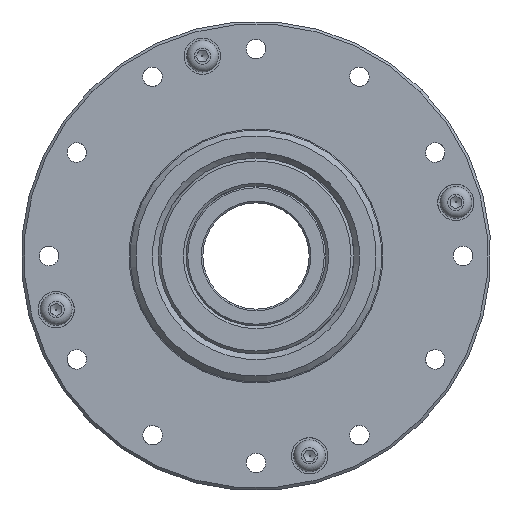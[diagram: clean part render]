
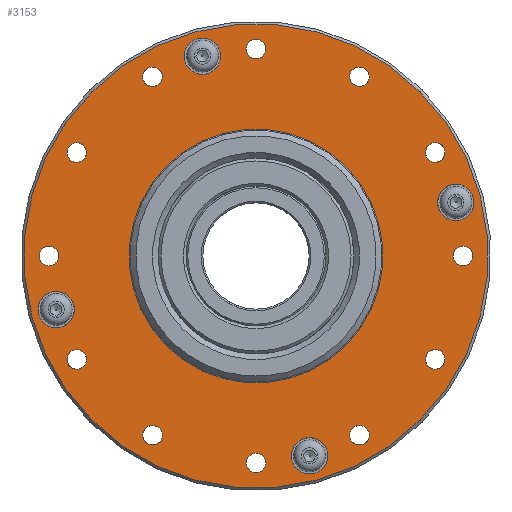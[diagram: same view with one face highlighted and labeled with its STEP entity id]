
A CAD part, left-side view. The second image highlights one B-rep face of the part: STEP entity #3153.
In plain terms, the highlighted planar face has unit normal (-1, 0, 0).
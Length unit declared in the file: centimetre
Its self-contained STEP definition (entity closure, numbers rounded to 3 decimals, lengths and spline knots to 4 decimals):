
#655=FACE_BOUND($,#1190,.T.);
#656=FACE_BOUND($,#1191,.T.);
#657=FACE_BOUND($,#1192,.T.);
#658=FACE_BOUND($,#1193,.T.);
#659=FACE_BOUND($,#1194,.T.);
#660=FACE_BOUND($,#1195,.T.);
#661=FACE_BOUND($,#1196,.T.);
#662=FACE_BOUND($,#1197,.T.);
#663=FACE_BOUND($,#1198,.T.);
#664=FACE_BOUND($,#1199,.T.);
#665=FACE_BOUND($,#1200,.T.);
#666=FACE_BOUND($,#1201,.T.);
#667=FACE_BOUND($,#1202,.T.);
#668=FACE_BOUND($,#1203,.T.);
#669=FACE_BOUND($,#1204,.T.);
#670=FACE_BOUND($,#1205,.T.);
#671=FACE_BOUND($,#1206,.T.);
#672=FACE_BOUND($,#1207,.T.);
#1190=EDGE_LOOP($,(#2621));
#1191=EDGE_LOOP($,(#2622));
#1192=EDGE_LOOP($,(#2623));
#1193=EDGE_LOOP($,(#2624));
#1194=EDGE_LOOP($,(#2625));
#1195=EDGE_LOOP($,(#2626));
#1196=EDGE_LOOP($,(#2627));
#1197=EDGE_LOOP($,(#2628));
#1198=EDGE_LOOP($,(#2629));
#1199=EDGE_LOOP($,(#2630));
#1200=EDGE_LOOP($,(#2631));
#1201=EDGE_LOOP($,(#2632));
#1202=EDGE_LOOP($,(#2633));
#1203=EDGE_LOOP($,(#2634));
#1204=EDGE_LOOP($,(#2635));
#1205=EDGE_LOOP($,(#2636));
#1206=EDGE_LOOP($,(#2637));
#1207=EDGE_LOOP($,(#2638));
#1539=CIRCLE($,#3455,0.325);
#1540=CIRCLE($,#3457,0.325);
#1541=CIRCLE($,#3459,0.325);
#1542=CIRCLE($,#3461,0.325);
#1544=CIRCLE($,#3464,2.27);
#1545=CIRCLE($,#3466,0.175);
#1546=CIRCLE($,#3467,0.175);
#1547=CIRCLE($,#3468,0.175);
#1548=CIRCLE($,#3469,0.175);
#1549=CIRCLE($,#3470,0.175);
#1550=CIRCLE($,#3471,0.175);
#1551=CIRCLE($,#3472,0.175);
#1552=CIRCLE($,#3473,0.175);
#1553=CIRCLE($,#3474,0.175);
#1554=CIRCLE($,#3475,0.175);
#1555=CIRCLE($,#3476,0.175);
#1556=CIRCLE($,#3477,0.175);
#1557=CIRCLE($,#3478,4.15);
#1798=VERTEX_POINT($,#5138);
#1799=VERTEX_POINT($,#5141);
#1800=VERTEX_POINT($,#5144);
#1801=VERTEX_POINT($,#5147);
#1803=VERTEX_POINT($,#5152);
#1804=VERTEX_POINT($,#5155);
#1805=VERTEX_POINT($,#5157);
#1806=VERTEX_POINT($,#5159);
#1807=VERTEX_POINT($,#5161);
#1808=VERTEX_POINT($,#5163);
#1809=VERTEX_POINT($,#5165);
#1810=VERTEX_POINT($,#5167);
#1811=VERTEX_POINT($,#5169);
#1812=VERTEX_POINT($,#5171);
#1813=VERTEX_POINT($,#5173);
#1814=VERTEX_POINT($,#5175);
#1815=VERTEX_POINT($,#5177);
#1816=VERTEX_POINT($,#5179);
#2123=EDGE_CURVE($,#1798,#1798,#1539,.T.);
#2124=EDGE_CURVE($,#1799,#1799,#1540,.T.);
#2125=EDGE_CURVE($,#1800,#1800,#1541,.T.);
#2126=EDGE_CURVE($,#1801,#1801,#1542,.T.);
#2128=EDGE_CURVE($,#1803,#1803,#1544,.T.);
#2129=EDGE_CURVE($,#1804,#1804,#1545,.T.);
#2130=EDGE_CURVE($,#1805,#1805,#1546,.T.);
#2131=EDGE_CURVE($,#1806,#1806,#1547,.T.);
#2132=EDGE_CURVE($,#1807,#1807,#1548,.T.);
#2133=EDGE_CURVE($,#1808,#1808,#1549,.T.);
#2134=EDGE_CURVE($,#1809,#1809,#1550,.T.);
#2135=EDGE_CURVE($,#1810,#1810,#1551,.T.);
#2136=EDGE_CURVE($,#1811,#1811,#1552,.T.);
#2137=EDGE_CURVE($,#1812,#1812,#1553,.T.);
#2138=EDGE_CURVE($,#1813,#1813,#1554,.T.);
#2139=EDGE_CURVE($,#1814,#1814,#1555,.T.);
#2140=EDGE_CURVE($,#1815,#1815,#1556,.T.);
#2141=EDGE_CURVE($,#1816,#1816,#1557,.T.);
#2621=ORIENTED_EDGE($,*,*,#2128,.F.);
#2622=ORIENTED_EDGE($,*,*,#2129,.T.);
#2623=ORIENTED_EDGE($,*,*,#2130,.T.);
#2624=ORIENTED_EDGE($,*,*,#2131,.T.);
#2625=ORIENTED_EDGE($,*,*,#2132,.T.);
#2626=ORIENTED_EDGE($,*,*,#2133,.T.);
#2627=ORIENTED_EDGE($,*,*,#2134,.T.);
#2628=ORIENTED_EDGE($,*,*,#2135,.T.);
#2629=ORIENTED_EDGE($,*,*,#2136,.T.);
#2630=ORIENTED_EDGE($,*,*,#2137,.T.);
#2631=ORIENTED_EDGE($,*,*,#2138,.T.);
#2632=ORIENTED_EDGE($,*,*,#2139,.T.);
#2633=ORIENTED_EDGE($,*,*,#2140,.T.);
#2634=ORIENTED_EDGE($,*,*,#2123,.T.);
#2635=ORIENTED_EDGE($,*,*,#2124,.T.);
#2636=ORIENTED_EDGE($,*,*,#2125,.T.);
#2637=ORIENTED_EDGE($,*,*,#2126,.T.);
#2638=ORIENTED_EDGE($,*,*,#2141,.F.);
#3015=PLANE($,#3465);
#3153=ADVANCED_FACE($,(#655,#656,#657,#658,#659,#660,#661,#662,#663,#664,
#665,#666,#667,#668,#669,#670,#671,#672),#3015,.T.);
#3455=AXIS2_PLACEMENT_3D($,#5139,#4112,#4113);
#3457=AXIS2_PLACEMENT_3D($,#5142,#4116,#4117);
#3459=AXIS2_PLACEMENT_3D($,#5145,#4120,#4121);
#3461=AXIS2_PLACEMENT_3D($,#5148,#4124,#4125);
#3464=AXIS2_PLACEMENT_3D($,#5153,#4130,#4131);
#3465=AXIS2_PLACEMENT_3D($,#5154,#4132,#4133);
#3466=AXIS2_PLACEMENT_3D($,#5156,#4134,#4135);
#3467=AXIS2_PLACEMENT_3D($,#5158,#4136,#4137);
#3468=AXIS2_PLACEMENT_3D($,#5160,#4138,#4139);
#3469=AXIS2_PLACEMENT_3D($,#5162,#4140,#4141);
#3470=AXIS2_PLACEMENT_3D($,#5164,#4142,#4143);
#3471=AXIS2_PLACEMENT_3D($,#5166,#4144,#4145);
#3472=AXIS2_PLACEMENT_3D($,#5168,#4146,#4147);
#3473=AXIS2_PLACEMENT_3D($,#5170,#4148,#4149);
#3474=AXIS2_PLACEMENT_3D($,#5172,#4150,#4151);
#3475=AXIS2_PLACEMENT_3D($,#5174,#4152,#4153);
#3476=AXIS2_PLACEMENT_3D($,#5176,#4154,#4155);
#3477=AXIS2_PLACEMENT_3D($,#5178,#4156,#4157);
#3478=AXIS2_PLACEMENT_3D($,#5180,#4158,#4159);
#4112=DIRECTION('center_axis',(1.,0.,0.));
#4113=DIRECTION('ref_axis',(0.,-0.259,-0.966));
#4116=DIRECTION('center_axis',(1.,0.,0.));
#4117=DIRECTION('ref_axis',(0.,-0.259,-0.966));
#4120=DIRECTION('center_axis',(1.,0.,0.));
#4121=DIRECTION('ref_axis',(0.,-0.259,-0.966));
#4124=DIRECTION('center_axis',(1.,0.,0.));
#4125=DIRECTION('ref_axis',(0.,-0.259,-0.966));
#4130=DIRECTION('center_axis',(-1.,0.,0.));
#4131=DIRECTION('ref_axis',(0.,0.966,-0.259));
#4132=DIRECTION('center_axis',(-1.,0.,0.));
#4133=DIRECTION('ref_axis',(0.,-0.259,-0.966));
#4134=DIRECTION('center_axis',(1.,0.,0.));
#4135=DIRECTION('ref_axis',(0.,-0.259,-0.966));
#4136=DIRECTION('center_axis',(1.,0.,0.));
#4137=DIRECTION('ref_axis',(0.,-0.259,-0.966));
#4138=DIRECTION('center_axis',(1.,0.,0.));
#4139=DIRECTION('ref_axis',(0.,-0.259,-0.966));
#4140=DIRECTION('center_axis',(1.,0.,0.));
#4141=DIRECTION('ref_axis',(0.,-0.259,-0.966));
#4142=DIRECTION('center_axis',(1.,0.,0.));
#4143=DIRECTION('ref_axis',(0.,-0.259,-0.966));
#4144=DIRECTION('center_axis',(1.,0.,0.));
#4145=DIRECTION('ref_axis',(0.,-0.259,-0.966));
#4146=DIRECTION('center_axis',(1.,0.,0.));
#4147=DIRECTION('ref_axis',(0.,-0.259,-0.966));
#4148=DIRECTION('center_axis',(1.,0.,0.));
#4149=DIRECTION('ref_axis',(0.,-0.259,-0.966));
#4150=DIRECTION('center_axis',(1.,0.,0.));
#4151=DIRECTION('ref_axis',(0.,-0.259,-0.966));
#4152=DIRECTION('center_axis',(1.,0.,0.));
#4153=DIRECTION('ref_axis',(0.,-0.259,-0.966));
#4154=DIRECTION('center_axis',(1.,0.,0.));
#4155=DIRECTION('ref_axis',(0.,-0.259,-0.966));
#4156=DIRECTION('center_axis',(1.,0.,0.));
#4157=DIRECTION('ref_axis',(0.,-0.259,-0.966));
#4158=DIRECTION('center_axis',(1.,0.,0.));
#4159=DIRECTION('ref_axis',(0.,0.966,-0.259));
#5138=CARTESIAN_POINT('',(-0.7,0.8735,3.26));
#5139=CARTESIAN_POINT('Origin',(-0.7,0.9576,3.5739));
#5141=CARTESIAN_POINT('',(-0.7,-1.0417,-3.8879));
#5142=CARTESIAN_POINT('Origin',(-0.7,-0.9576,-3.5739));
#5144=CARTESIAN_POINT('',(-0.7,-3.658,0.6437));
#5145=CARTESIAN_POINT('Origin',(-0.7,-3.5739,0.9576));
#5147=CARTESIAN_POINT('',(-0.7,3.4898,-1.2716));
#5148=CARTESIAN_POINT('Origin',(-0.7,3.5739,-0.9576));
#5152=CARTESIAN_POINT('',(-0.7,-2.1927,0.5875));
#5153=CARTESIAN_POINT('Origin',(-0.7,0.,
0.));
#5154=CARTESIAN_POINT('Origin',(-0.7,-4.0569,1.087));
#5155=CARTESIAN_POINT('',(-0.7,1.8047,-3.3733));
#5156=CARTESIAN_POINT('Origin',(-0.7,1.85,-3.2043));
#5157=CARTESIAN_POINT('',(-0.7,3.6547,-0.169));
#5158=CARTESIAN_POINT('Origin',(-0.7,3.7,0.));
#5159=CARTESIAN_POINT('',(-0.7,1.8047,3.0353));
#5160=CARTESIAN_POINT('Origin',(-0.7,1.85,3.2043));
#5161=CARTESIAN_POINT('',(-0.7,-1.8953,3.0353));
#5162=CARTESIAN_POINT('Origin',(-0.7,-1.85,3.2043));
#5163=CARTESIAN_POINT('',(-0.7,-3.7453,-0.169));
#5164=CARTESIAN_POINT('Origin',(-0.7,-3.7,0.));
#5165=CARTESIAN_POINT('',(-0.7,-1.8953,-3.3733));
#5166=CARTESIAN_POINT('Origin',(-0.7,-1.85,-3.2043));
#5167=CARTESIAN_POINT('',(-0.7,-3.2496,-2.019));
#5168=CARTESIAN_POINT('Origin',(-0.7,-3.2043,-1.85));
#5169=CARTESIAN_POINT('',(-0.7,-3.2496,1.681));
#5170=CARTESIAN_POINT('Origin',(-0.7,-3.2043,1.85));
#5171=CARTESIAN_POINT('',(-0.7,-0.0453,3.531));
#5172=CARTESIAN_POINT('Origin',(-0.7,0.,
3.7));
#5173=CARTESIAN_POINT('',(-0.7,3.159,1.681));
#5174=CARTESIAN_POINT('Origin',(-0.7,3.2043,1.85));
#5175=CARTESIAN_POINT('',(-0.7,3.159,-2.019));
#5176=CARTESIAN_POINT('Origin',(-0.7,3.2043,-1.85));
#5177=CARTESIAN_POINT('',(-0.7,-0.0453,-3.869));
#5178=CARTESIAN_POINT('Origin',(-0.7,0.,
-3.7));
#5179=CARTESIAN_POINT('',(-0.7,-4.0086,1.0741));
#5180=CARTESIAN_POINT('Origin',(-0.7,0.,
0.));
